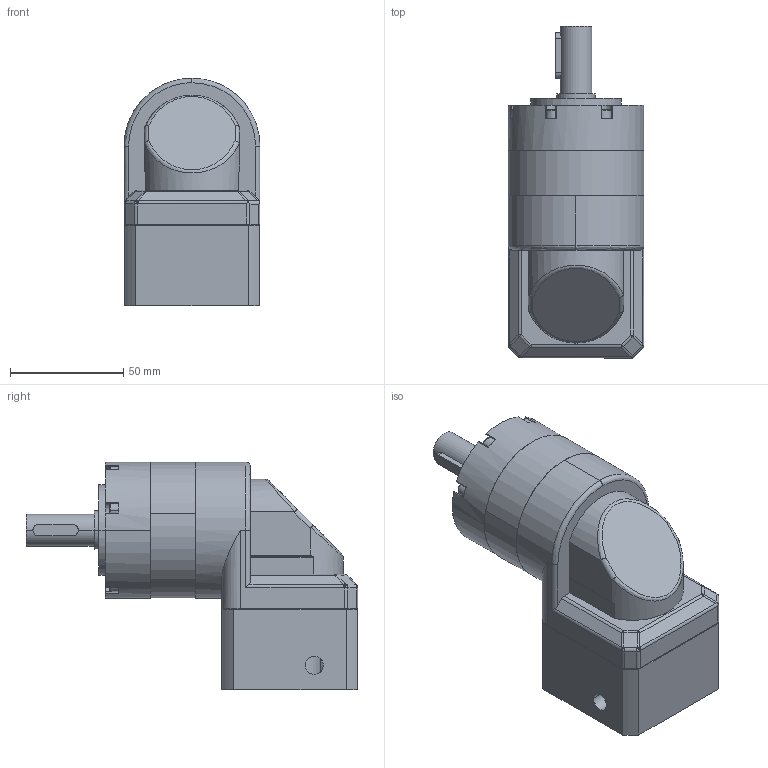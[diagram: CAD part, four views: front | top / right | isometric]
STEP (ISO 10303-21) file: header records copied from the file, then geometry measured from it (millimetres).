
FILE_DESCRIPTION (( 'STEP AP203' ), '1' );
FILE_NAME ('PVEA060-L1-11-50-70.STEP', '2026-09-21T06:34:33', ( 'Windows User' ), ( 'P R C' ), 'SwSTEP 2.0', 'SolidWorks 2016', '' );
FILE_SCHEMA (( 'CONFIG_CONTROL_DESIGN' ));
Length unit declared in the file: millimetre
Products named in the file (9): PVEA60-蟀諉啣; 囀鞠褒蹟佪-M5℅16; 邧埴瑩  5x5x20; PVEA60-眊极_揤翉陔眊极; PVEA60 κｳﾝﾈｦ_ﾒｻｼｶﾄﾚｳﾝﾈｦ; PVEA060-L1-11-50-70; B-PRL60 奻屳唳; PVEA60-薊粣-11; 双列角接触球轴承5203_2
Assembly tree (8 placements, depth 2):
  PVEA060-L1-11-50-70
    B-PRL60 奻屳唳
    PVEA60-薊粣-11
    双列角接触球轴承5203_2
    PVEA60-蟀諉啣
    囀鞠褒蹟佪-M5℅16
    邧埴瑩  5x5x20
    PVEA60-眊极_揤翉陔眊极
    PVEA60 κｳﾝﾈｦ_ﾒｻｼｶﾄﾚｳﾝﾈｦ
Bounding box: 60 x 146.5 x 100.5 mm (x, y, z)
Volume: 356941.4 mm3; surface area: 97796.6 mm2
Topology: 8 solids, 8 shells, 1178 faces, 3202 edges, 2081 vertices
Faces by surface type: plane 568, bspline 286, cylinder 274, cone 50
Entity records: 46844 total; most frequent: CARTESIAN_POINT 17878, ORIENTED_EDGE 6304, DIRECTION 5099, EDGE_CURVE 3152, VERTEX_POINT 2075, VECTOR 1737, LINE 1737, AXIS2_PLACEMENT_3D 1681
